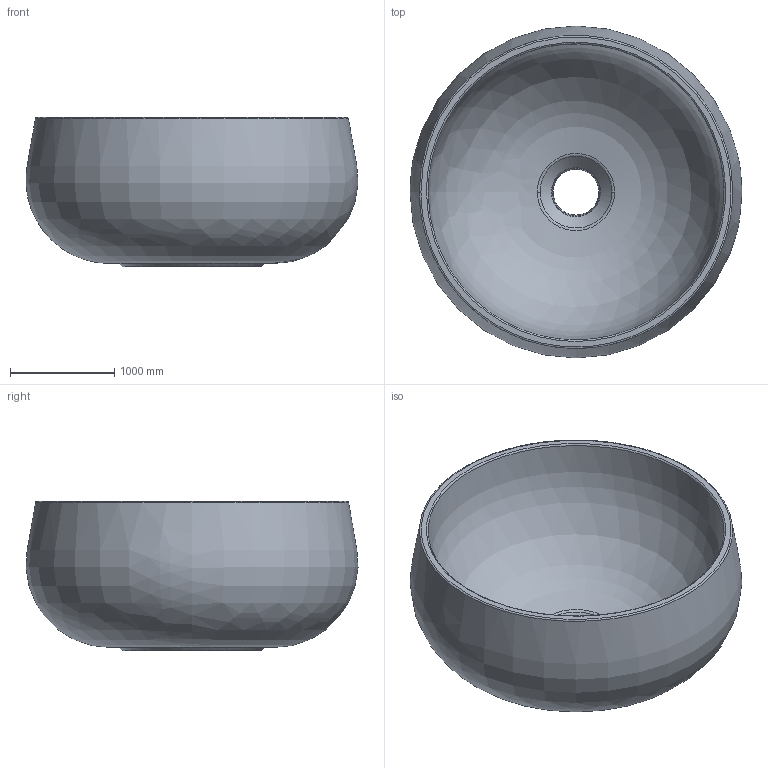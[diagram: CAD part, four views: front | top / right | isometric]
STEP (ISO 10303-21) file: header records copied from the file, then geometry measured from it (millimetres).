
FILE_DESCRIPTION(/* description */ (''),/* implementation_level */ '2;1');
FILE_NAME(/* name */ 'BATO30',/* time_stamp */ '2025-05-09T11:57:47+02:00',/* author */ (''),/* organization */ (''),/* preprocessor_version */ 'ST-DEVELOPER v16.5',/* originating_system */ 'Rhino 7.27',/* authorisation */ '');
FILE_SCHEMA (('CONFIG_CONTROL_DESIGN'));
Length unit declared in the file: centimetre
Products named in the file (1): Document
Bounding box: 3184.5 x 3185.02 x 1430 mm (x, y, z)
Volume: 4123499842.4 mm3; surface area: 31209382.5 mm2
Topology: 1 solids, 1 shells, 22 faces, 44 edges, 25 vertices
Faces by surface type: bspline 19, plane 3
Entity records: 3336 total; most frequent: CARTESIAN_POINT 2979, ORIENTED_EDGE 88, EDGE_CURVE 44, EDGE_LOOP 25, VERTEX_POINT 25, ADVANCED_FACE 22, FACE_OUTER_BOUND 22, B_SPLINE_CURVE_WITH_KNOTS 19
